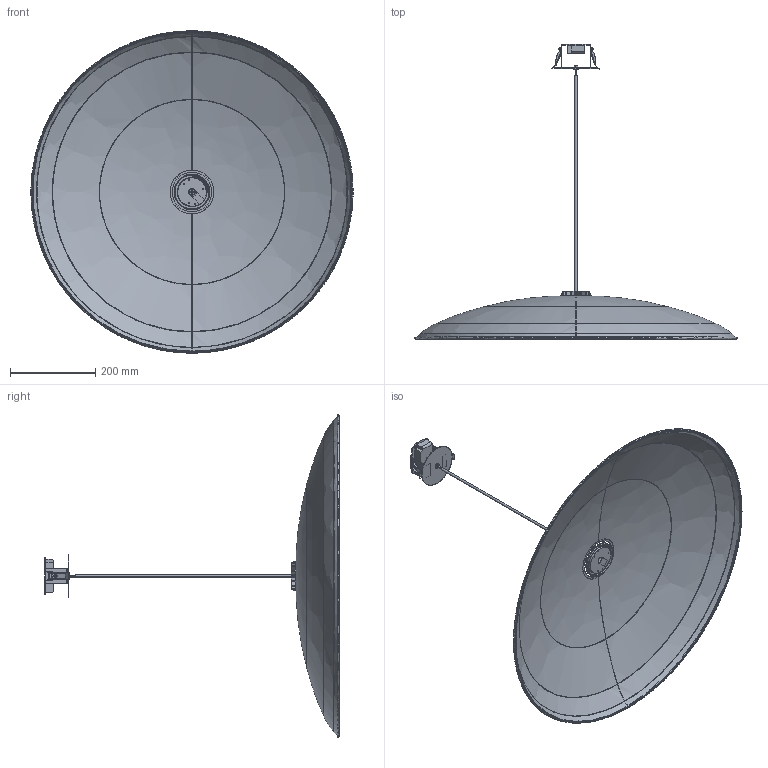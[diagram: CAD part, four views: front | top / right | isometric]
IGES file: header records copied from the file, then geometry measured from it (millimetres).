
Start section: SolidWorks IGES file using analytic representation for surfaces
Global section: file name: C:\Users\berta.gumma\OneDrive - santa &cole\Desktop\HeadHat Plate L florón empotrado.IGS; native system: SolidWorks 2021; preprocessor: SolidWorks 2021; author: berta.gumma; date: 230904.101643; units: millimetre
Bounding box: 756.49 x 692.06 x 756.5 mm (x, y, z)
Surface area: 1080170.3 mm2 (no closed solid volume)
Topology: 0 solids, 0 shells, 781 faces, 10162 edges, 10152 vertices
Faces by surface type: bspline 551, revolution 230
